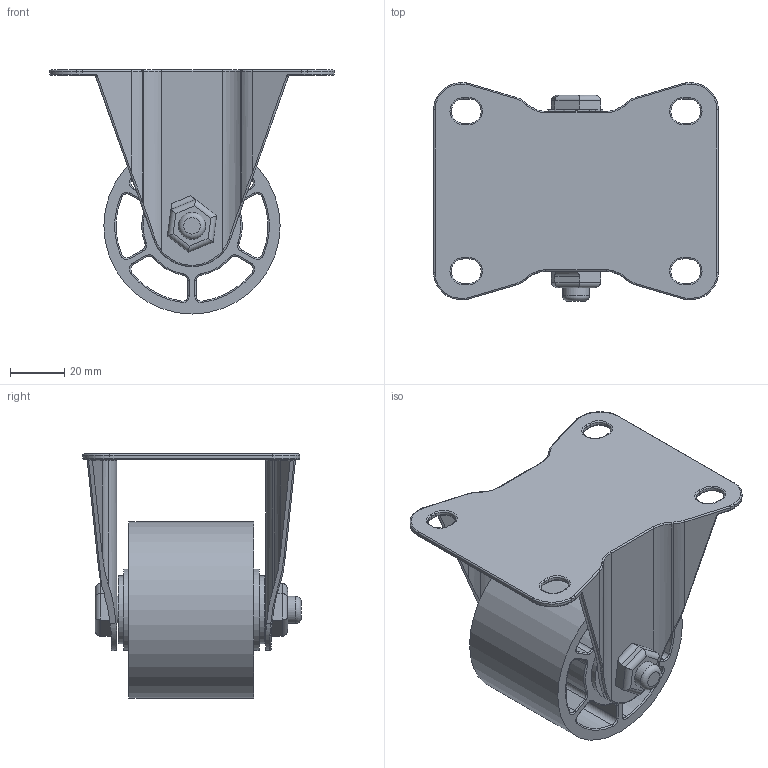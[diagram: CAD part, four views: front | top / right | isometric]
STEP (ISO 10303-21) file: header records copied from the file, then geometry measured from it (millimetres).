
FILE_DESCRIPTION(/* description */ (''),/* implementation_level */ '2;1');
FILE_NAME(/* name */ '30B03_2,5_F.stp',/* time_stamp */ '2022-09-03T12:29:02+08:00',/* author */ (''),/* organization */ (''),/* preprocessor_version */ 'ST-DEVELOPER v14',/* originating_system */ 'SIEMENS PLM Software NX 8.0',/* authorisation */ '');
FILE_SCHEMA (('AUTOMOTIVE_DESIGN { 1 0 10303 214 3 1 1 1 }'));
Length unit declared in the file: millimetre
Products named in the file (1): 30B03_2,5_F
Bounding box: 105 x 80.5 x 90 mm (x, y, z)
Volume: 122481.7 mm3; surface area: 64261.5 mm2
Topology: 1 solids, 2 shells, 559 faces, 1380 edges, 850 vertices
Faces by surface type: plane 234, cylinder 199, torus 116, bspline 10
Full cylindrical faces by diameter (mm): 10 x4, 20 x1, 25 x2, 30 x2, 65 x1
Entity records: 16943 total; most frequent: CARTESIAN_POINT 4057, ORIENTED_EDGE 2730, DIRECTION 2648, EDGE_CURVE 1365, AXIS2_PLACEMENT_3D 1044, VERTEX_POINT 848, EDGE_LOOP 621, LINE 560
